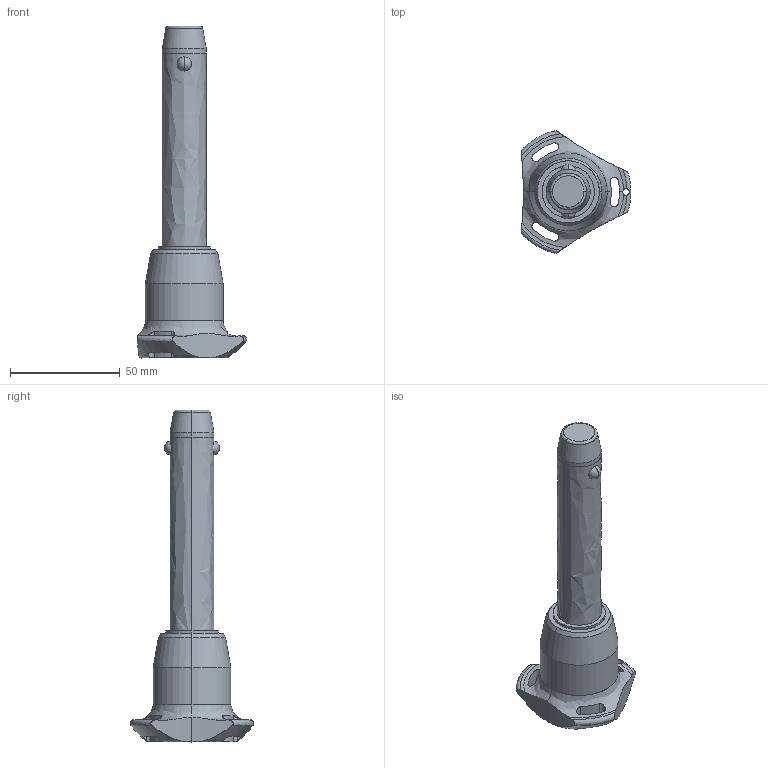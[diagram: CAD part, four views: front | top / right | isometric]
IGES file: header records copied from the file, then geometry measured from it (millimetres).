
Start section: SolidWorks IGES file using analytic representation for surfaces
Global section: file name: C:\Users\ianosborn\Desktop\33060_v2\33060.BK_v2_20240910_IGES\33060.W0908.igs; native system: SolidWorks 2019; preprocessor: SolidWorks 2019; author: IanOsborn; date: 240910.202121; units: millimetre
Bounding box: 50.05 x 56.02 x 151.2 mm (x, y, z)
Surface area: 16103.2 mm2 (no closed solid volume)
Topology: 0 solids, 0 shells, 68 faces, 1445 edges, 1441 vertices
Faces by surface type: revolution 52, bspline 16
